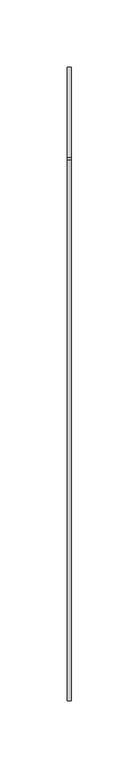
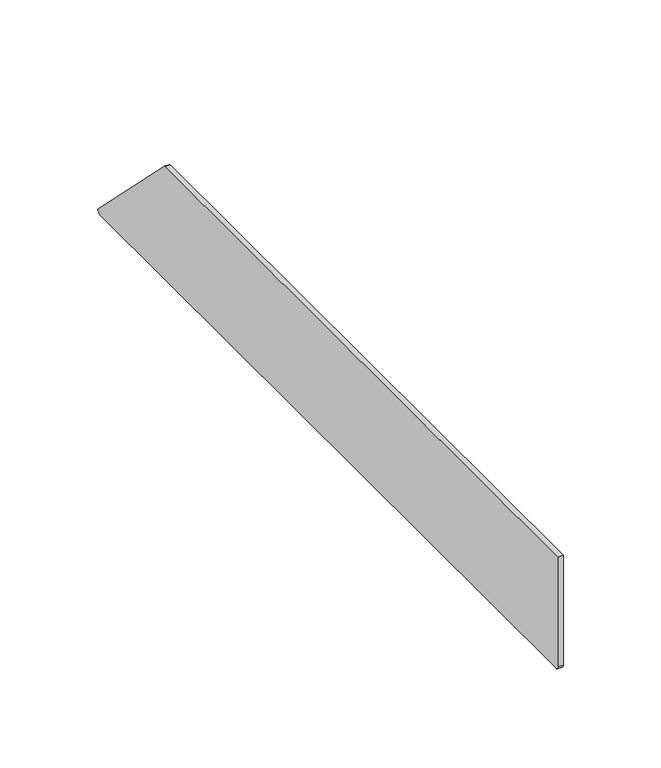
"""IFC4 building model written with IfcOpenShell, lengths in millimetres: cable carrier fitting geometry, Electrical_Installation_Hager_End-Piece : Electrical_Installation_Hager_End-Piece."""

from ifc_helpers import new_model, si_unit, point, frame, frame_2d, origin, place, context, project, spatial, polyline, circle_curve, trimmed, segment, composite_curve, outline, extrude, source, transform, mapped, element, save


def cable_carrier_fitting_c61de814(model_context):
    return source(origin(), model_context, "Body", "SweptSolid", [
        extrude(outline(composite_curve([segment(polyline([(-200.0, -33.0), (-200.0, 35.5), (201.7124549, 35.5)]), True, "CONTINUOUS"), segment(trimmed(circle_curve(frame_2d((200.5004738, 31.6648514)), 4.0220969), [point((201.7124549, 35.5))], [point((203.5142136, 34.3284271))], False, "CARTESIAN"), True, "CONTINUOUS"), segment(polyline([(203.5142136, 34.3284271), (270.7213203, -32.8786797), (268.6, -35.0), (-198.0, -35.0)]), True, "CONTINUOUS"), segment(trimmed(circle_curve(frame_2d((-198.0, -33.0)), 2.0), [point((-198.0, -35.0))], [point((-200.0, -33.0))], False, "CARTESIAN"), True, "CONTINUOUS")], self_intersect=False)), frame((0.0, 0.0, 0.0), z_axis=(1.0, 0.0, 0.0), x_axis=(0.0, 1.0, 0.0)), (0.0, 0.0, 1.0), 3.0),
    ])


if __name__ == "__main__":
    model = new_model("IFC4")
    model_context = context("Model", 3, world=origin())
    ifc_project = project(units=[si_unit("LENGTHUNIT", "METRE", prefix="MILLI")], contexts=[model_context])
    site = spatial("IfcSite", under=ifc_project)
    building = spatial("IfcBuilding", under=site)
    placement = place(None, origin())
    cable_carrier_fitting_shape = cable_carrier_fitting_c61de814(model_context)
    element("IfcCableCarrierFitting", 1, ObjectType="Electrical_Installation_Hager_End-Piece : Electrical_Installation_Hager_End-Piece", at=placement, inside=building, context=model_context, shape_type="MappedRepresentation", body=[
        mapped(cable_carrier_fitting_shape, transform((0.0, 0.0, 0.0), x_axis=(1.0, 0.0, 0.0), y_axis=(0.0, 1.0, 0.0), z_axis=(0.0, 0.0, 1.0))),
    ])
    save(model, "model.ifc")
